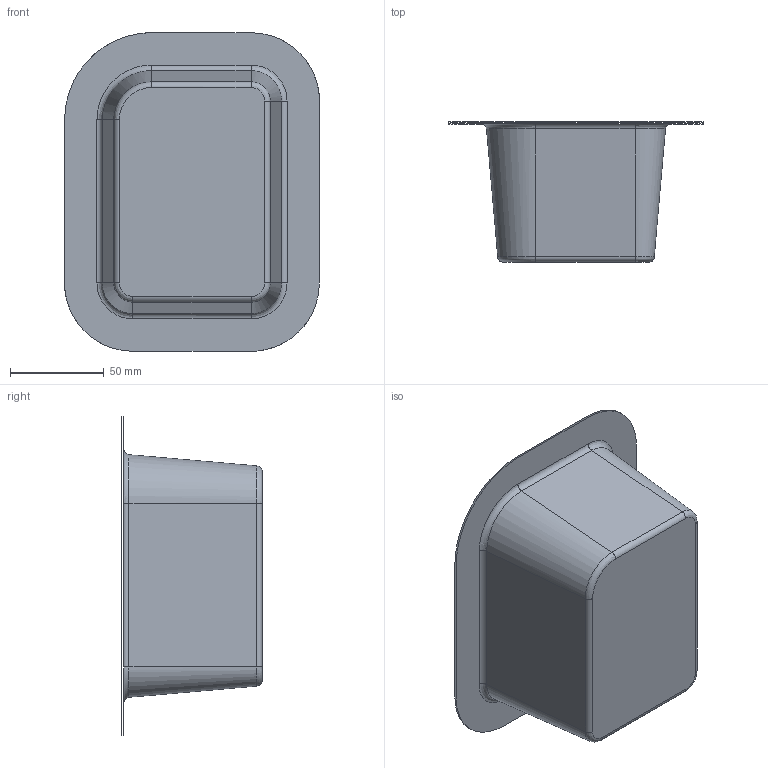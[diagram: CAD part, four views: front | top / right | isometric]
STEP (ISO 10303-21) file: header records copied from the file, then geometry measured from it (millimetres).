
FILE_DESCRIPTION(('CATIA V5 STEP Exchange'),'2;1');
FILE_NAME('C:\_Andres\UNIVERSIDAD\IQS\ASIGNATURAS\DAO\Controles\1617\c3\2inicio\Lopez_Triquell_control3_v17.stp','2017-02-17T14:22:07+00:00',('none'),('none'),'CATIA Version 5-6 Release 2014 SP1 HF18','CATIA V5 STEP AP203','none');
FILE_SCHEMA(('CONFIG_CONTROL_DESIGN'));
Length unit declared in the file: millimetre
Products named in the file (1): Lopez_Triquell_control3_v17
Bounding box: 135.9 x 74.72 x 169.9 mm (x, y, z)
Surface area: 69645.3 mm2 (no closed solid volume)
Topology: 0 solids, 2 shells, 27 faces, 80 edges, 57 vertices
Faces by surface type: bspline 16, cylinder 8, plane 3
Entity records: 1991 total; most frequent: CARTESIAN_POINT 1395, ORIENTED_EDGE 128, EDGE_CURVE 72, B_SPLINE_CURVE_WITH_KNOTS 54, DIRECTION 50, VERTEX_POINT 48, EDGE_LOOP 28, ADVANCED_FACE 27
